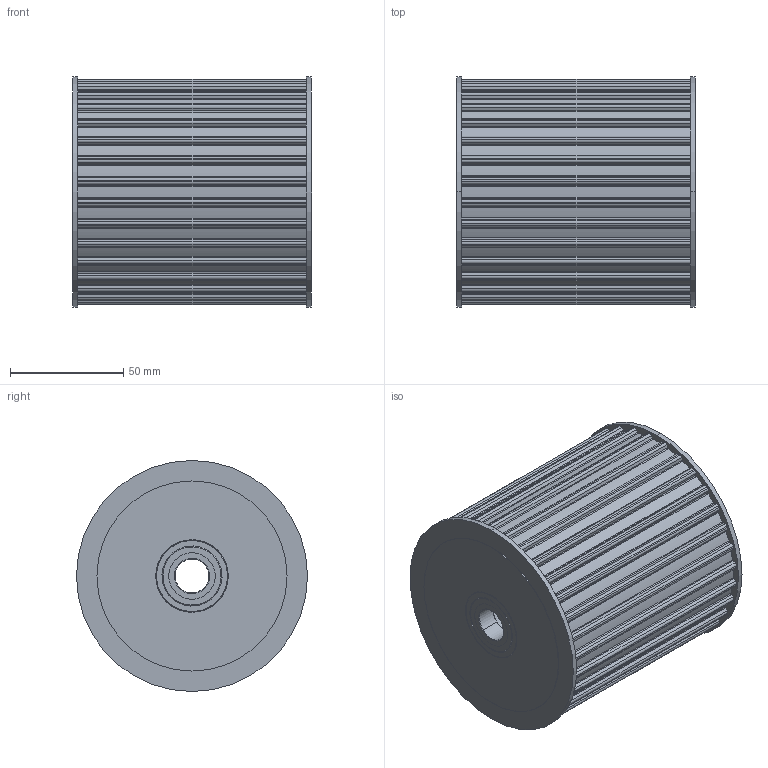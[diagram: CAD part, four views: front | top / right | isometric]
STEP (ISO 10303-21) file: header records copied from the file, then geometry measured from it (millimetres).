
FILE_DESCRIPTION (( 'STEP AP214' ), '1' );
FILE_NAME ('3.2033 hammashihnapyörä 100AT10_32D32_20_0.STEP', '2026-02-10T12:01:02', ( '' ), ( '' ), 'SwSTEP 2.0', 'SolidWorks 2025', '' );
FILE_SCHEMA (( 'AUTOMOTIVE_DESIGN' ));
Length unit declared in the file: millimetre
Products named in the file (1): 3.2033 hammashihnapyörä 100AT10_32D32_20_0
Bounding box: 106 x 102 x 102 mm (x, y, z)
Volume: 720805.9 mm3; surface area: 74720.3 mm2
Topology: 27 solids, 31 shells, 659 faces, 1776 edges, 1178 vertices
Faces by surface type: cylinder 277, plane 200, bspline 98, sphere 48, torus 28, cone 8
Entity records: 28472 total; most frequent: CARTESIAN_POINT 10643, ORIENTED_EDGE 3312, DIRECTION 3210, EDGE_CURVE 1656, AXIS2_PLACEMENT_3D 1204, VERTEX_POINT 1106, LINE 802, VECTOR 802
